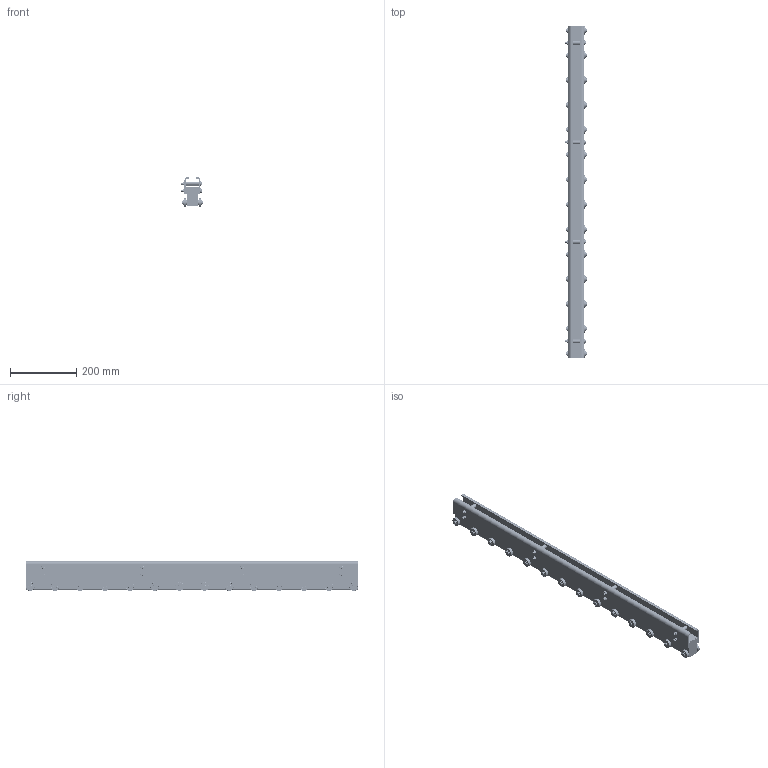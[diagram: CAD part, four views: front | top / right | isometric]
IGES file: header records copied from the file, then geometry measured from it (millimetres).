
Global section: file name: SPC-RO-035Wx087Hx1000L; native system: unknown; preprocessor: unknown; author: unknown; organization: unknown; date: 20230404.104001; units: millimetre
Bounding box: 64.7 x 1001 x 89.98 mm (x, y, z)
Volume: 1126299.2 mm3; surface area: 902108.1 mm2
Topology: 458 solids, 486 shells, 2949 faces, 8100 edges, 5442 vertices
Faces by surface type: bspline 2949
